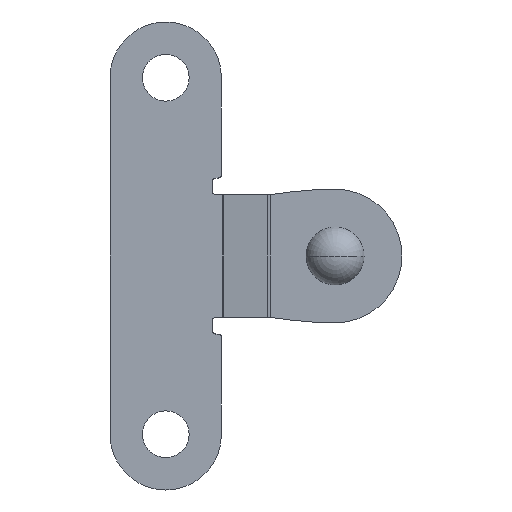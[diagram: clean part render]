
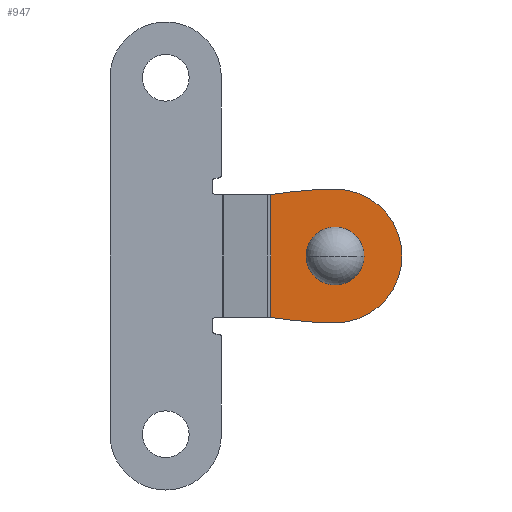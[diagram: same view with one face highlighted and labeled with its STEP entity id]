
A CAD part, front view. The second image highlights one B-rep face of the part: STEP entity #947.
In plain terms, the highlighted planar face has unit normal (0, -1, 0).
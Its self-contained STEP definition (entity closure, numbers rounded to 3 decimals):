
#145 = ORIENTED_EDGE ( 'NONE', *, *, #956, .F. ) ;
#146 = ORIENTED_EDGE ( 'NONE', *, *, #824, .T. ) ;
#147 = ORIENTED_EDGE ( 'NONE', *, *, #975, .F. ) ;
#148 = ORIENTED_EDGE ( 'NONE', *, *, #823, .T. ) ;
#149 = ORIENTED_EDGE ( 'NONE', *, *, #883, .T. ) ;
#250 = DIRECTION ( 'NONE',  ( 0., 0., -1. ) ) ;
#252 = DIRECTION ( 'NONE',  ( -1., 0., 0. ) ) ;
#253 = DIRECTION ( 'NONE',  ( 0., 1., 0. ) ) ;
#254 = CARTESIAN_POINT ( 'NONE',  ( 15.2, -0.5, 16. ) ) ;
#255 = LINE ( 'NONE', #260, #1308 ) ;
#260 = CARTESIAN_POINT ( 'NONE',  ( 9.412, -0.5, 10.5 ) ) ;
#308 = CARTESIAN_POINT ( 'NONE',  ( 15.2, -0.5, 10. ) ) ;
#309 = CARTESIAN_POINT ( 'NONE',  ( 15.112, -0.5, 10.001 ) ) ;
#311 = CARTESIAN_POINT ( 'NONE',  ( 15.2, -0.5, 22. ) ) ;
#315 = CARTESIAN_POINT ( 'NONE',  ( 12.6, -0.5, 16. ) ) ;
#321 = CARTESIAN_POINT ( 'NONE',  ( 17.8, -0.5, 16. ) ) ;
#364 = CARTESIAN_POINT ( 'NONE',  ( 15.112, -0.5, 21.999 ) ) ;
#374 = CARTESIAN_POINT ( 'NONE',  ( 9.412, -0.5, 10.494 ) ) ;
#376 = CARTESIAN_POINT ( 'NONE',  ( 9.412, -0.5, 21.506 ) ) ;
#463 = VERTEX_POINT ( 'NONE', #374 ) ;
#465 = VERTEX_POINT ( 'NONE', #376 ) ;
#466 = VERTEX_POINT ( 'NONE', #364 ) ;
#561 = ORIENTED_EDGE ( 'NONE', *, *, #981, .F. ) ;
#562 = ORIENTED_EDGE ( 'NONE', *, *, #879, .F. ) ;
#563 = ORIENTED_EDGE ( 'NONE', *, *, #857, .F. ) ;
#568 = VERTEX_POINT ( 'NONE', #315 ) ;
#571 = VERTEX_POINT ( 'NONE', #321 ) ;
#574 = VERTEX_POINT ( 'NONE', #311 ) ;
#576 = VERTEX_POINT ( 'NONE', #309 ) ;
#577 = VERTEX_POINT ( 'NONE', #308 ) ;
#669 = EDGE_LOOP ( 'NONE', ( #147, #146, #145, #563, #562, #561 ) ) ;
#671 = EDGE_LOOP ( 'NONE', ( #149, #148 ) ) ;
#701 = AXIS2_PLACEMENT_3D ( 'NONE', #1471, #1485, #1486 ) ;
#711 = AXIS2_PLACEMENT_3D ( 'NONE', #1521, #1522, #1523 ) ;
#774 = CIRCLE ( 'NONE', #776, 40. ) ;
#776 = AXIS2_PLACEMENT_3D ( 'NONE', #1007, #1008, #1009 ) ;
#782 = AXIS2_PLACEMENT_3D ( 'NONE', #1027, #1028, #1029 ) ;
#803 = CIRCLE ( 'NONE', #711, 40. ) ;
#808 = CIRCLE ( 'NONE', #782, 6. ) ;
#823 = EDGE_CURVE ( 'NONE', #571, #568, #1376, .T. ) ;
#824 = EDGE_CURVE ( 'NONE', #465, #463, #255, .T. ) ;
#857 = EDGE_CURVE ( 'NONE', #577, #576, #1339, .T. ) ;
#879 = EDGE_CURVE ( 'NONE', #574, #577, #1314, .T. ) ;
#883 = EDGE_CURVE ( 'NONE', #568, #571, #1384, .T. ) ;
#947 = ADVANCED_FACE ( 'NONE', ( #1482, #1478 ), #1483, .F. ) ;
#956 = EDGE_CURVE ( 'NONE', #576, #463, #803, .T. ) ;
#975 = EDGE_CURVE ( 'NONE', #465, #466, #774, .T. ) ;
#981 = EDGE_CURVE ( 'NONE', #466, #574, #808, .T. ) ;
#1007 = CARTESIAN_POINT ( 'NONE',  ( 15.7, -0.5, -17.996 ) ) ;
#1008 = DIRECTION ( 'NONE',  ( 0., 1., 0. ) ) ;
#1009 = DIRECTION ( 'NONE',  ( 0., 0., 1. ) ) ;
#1027 = CARTESIAN_POINT ( 'NONE',  ( 15.2, -0.5, 16. ) ) ;
#1028 = DIRECTION ( 'NONE',  ( 0., 1., 0. ) ) ;
#1029 = DIRECTION ( 'NONE',  ( 0., 0., 1. ) ) ;
#1237 = CARTESIAN_POINT ( 'NONE',  ( 15.2, -0.5, 16. ) ) ;
#1238 = DIRECTION ( 'NONE',  ( 0., 1., 0. ) ) ;
#1239 = DIRECTION ( 'NONE',  ( 0., 0., 1. ) ) ;
#1247 = CARTESIAN_POINT ( 'NONE',  ( 15.2, -0.5, 16. ) ) ;
#1248 = DIRECTION ( 'NONE',  ( 0., 1., 0. ) ) ;
#1249 = DIRECTION ( 'NONE',  ( -1., 0., 0. ) ) ;
#1277 = AXIS2_PLACEMENT_3D ( 'NONE', #1237, #1238, #1239 ) ;
#1278 = AXIS2_PLACEMENT_3D ( 'NONE', #1386, #1387, #1388 ) ;
#1308 = VECTOR ( 'NONE', #250, 1000. ) ;
#1314 = CIRCLE ( 'NONE', #1277, 6. ) ;
#1320 = AXIS2_PLACEMENT_3D ( 'NONE', #254, #253, #252 ) ;
#1339 = CIRCLE ( 'NONE', #1278, 6. ) ;
#1351 = AXIS2_PLACEMENT_3D ( 'NONE', #1247, #1248, #1249 ) ;
#1376 = CIRCLE ( 'NONE', #1320, 2.6 ) ;
#1384 = CIRCLE ( 'NONE', #1351, 2.6 ) ;
#1386 = CARTESIAN_POINT ( 'NONE',  ( 15.2, -0.5, 16. ) ) ;
#1387 = DIRECTION ( 'NONE',  ( 0., 1., 0. ) ) ;
#1388 = DIRECTION ( 'NONE',  ( 0., 0., 1. ) ) ;
#1471 = CARTESIAN_POINT ( 'NONE',  ( 0., -0.5, 0. ) ) ;
#1478 = FACE_OUTER_BOUND ( 'NONE', #669, .T. ) ;
#1482 = FACE_BOUND ( 'NONE', #671, .T. ) ;
#1483 = PLANE ( 'NONE',  #701 ) ;
#1485 = DIRECTION ( 'NONE',  ( 0., 1., 0. ) ) ;
#1486 = DIRECTION ( 'NONE',  ( 0., 0., 1. ) ) ;
#1521 = CARTESIAN_POINT ( 'NONE',  ( 15.7, -0.5, 49.996 ) ) ;
#1522 = DIRECTION ( 'NONE',  ( 0., 1., 0. ) ) ;
#1523 = DIRECTION ( 'NONE',  ( 0., 0., -1. ) ) ;
